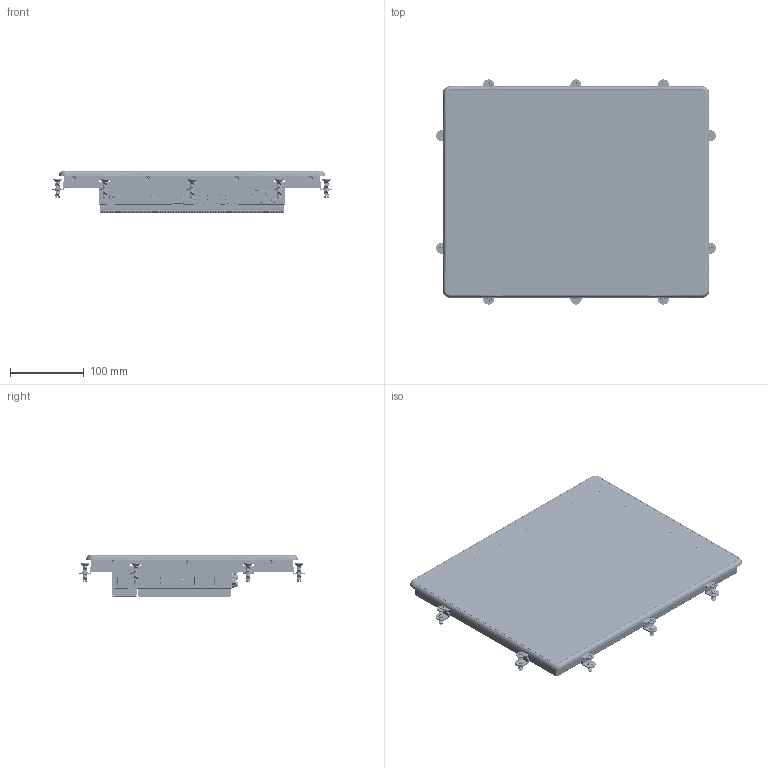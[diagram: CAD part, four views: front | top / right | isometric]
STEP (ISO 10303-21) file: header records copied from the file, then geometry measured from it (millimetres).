
FILE_DESCRIPTION((''),'2;1');
FILE_NAME('NP4C-150','2026-06-02T10:38:31',('gijyu181'),(''),'CREO PARAMETRIC BY PTC INC, 2018050','CREO PARAMETRIC BY PTC INC, 2018050','');
FILE_SCHEMA(('CONFIG_CONTROL_DESIGN','SHAPE_APPEARANCE_LAYERS_GROUPS'));
Products named in the file (1): NP4C-150
Bounding box: 378.6 x 304.6 x 56.5 mm (x, y, z)
Volume: 983555.6 mm3; surface area: 832665 mm2
Topology: 36 solids, 88 shells, 31205 faces, 90801 edges, 59884 vertices
Faces by surface type: plane 21060, cylinder 7354, extrusion 1414, bspline 531, cone 521, torus 199, sphere 110, revolution 16
Entity records: 1249701 total; most frequent: CARTESIAN_POINT 296509, ORIENTED_EDGE 180579, DIRECTION 158961, EDGE_CURVE 90717, VECTOR 71049, LINE 69635, VERTEX_POINT 59885, AXIS2_PLACEMENT_3D 43948
